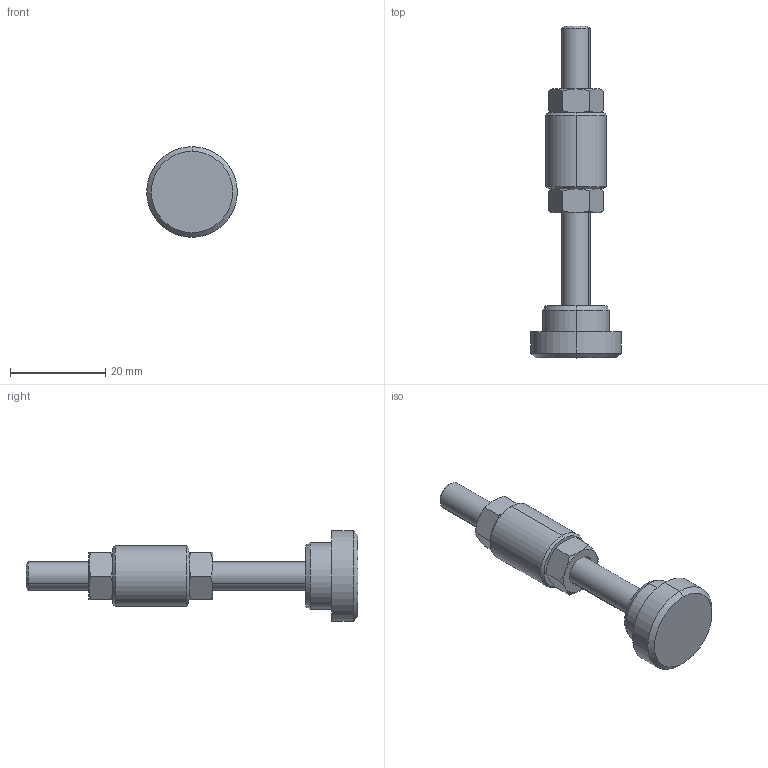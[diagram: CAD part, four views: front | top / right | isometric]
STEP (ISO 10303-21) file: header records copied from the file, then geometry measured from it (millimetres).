
FILE_DESCRIPTION (( 'STEP AP203' ), '1' );
FILE_NAME ('ARB-M6.STEP', '2014-01-29T15:34:08', ( 'Ricardo' ), ( '' ), 'SwSTEP 2.0', 'SolidWorks 2012', '' );
FILE_SCHEMA (( 'CONFIG_CONTROL_DESIGN' ));
Length unit declared in the file: millimetre
Products named in the file (5): 11.50001; 12.50019; 20.20003; 20.20008; ARB-M6
Assembly tree (5 placements, depth 2):
  ARB-M6
    20.20003
    11.50001  x2
    12.50019
    20.20008
Bounding box: 19.05 x 69.7 x 19.05 mm (x, y, z)
Volume: 5684.7 mm3; surface area: 4631.8 mm2
Topology: 5 solids, 5 shells, 94 faces, 198 edges, 115 vertices
Faces by surface type: cone 48, plane 30, cylinder 16
Entity records: 2409 total; most frequent: CARTESIAN_POINT 419, DIRECTION 326, ORIENTED_EDGE 280, EDGE_CURVE 140, AXIS2_PLACEMENT_3D 134, VERTEX_POINT 83, EDGE_LOOP 75, ADVANCED_FACE 68
